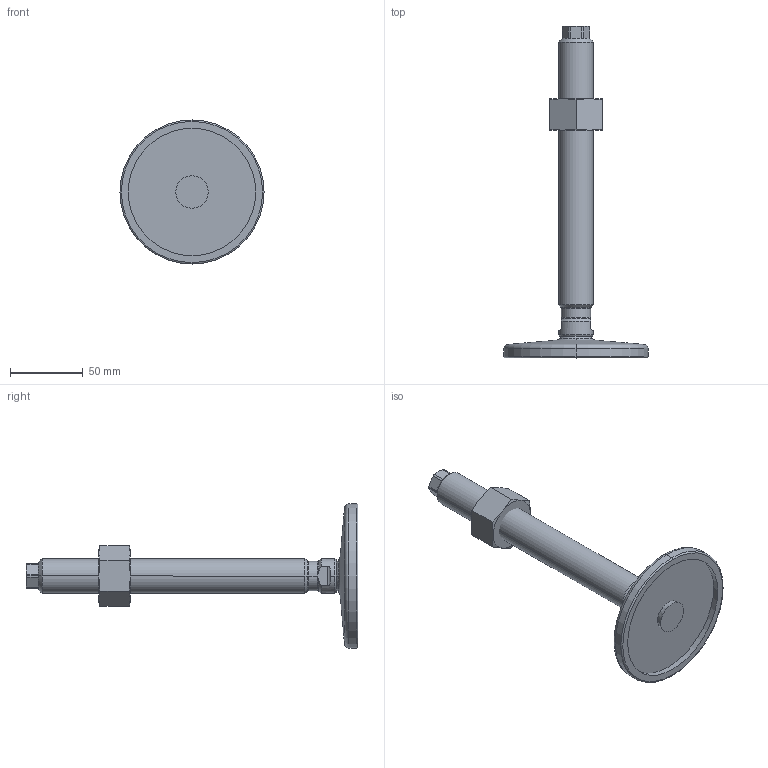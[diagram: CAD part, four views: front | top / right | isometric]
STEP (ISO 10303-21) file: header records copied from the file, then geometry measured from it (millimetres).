
FILE_DESCRIPTION (( 'STEP AP214' ), '1' );
FILE_NAME ('21-100-M24-200-D0-VK.step', '2020-10-02T17:37:04', ( '' ), ( '' ), 'SwSTEP 2.0', 'SolidWorks 2019', '' );
FILE_SCHEMA (( 'AUTOMOTIVE_DESIGN' ));
Length unit declared in the file: millimetre
Products named in the file (4): 21-100-M24-200-D0-VK; WB4032^WB21_V_M24; WB21_Fußteller 21^WB21_V_D0-100-R14-B9 (M24); WB21_Spindel_V^WB21_V_M24-200
Assembly tree (3 placements, depth 2):
  21-100-M24-200-D0-VK
    WB21_Fußteller 21^WB21_V_D0-100-R14-B9 (M24)
    WB21_Spindel_V^WB21_V_M24-200
    WB4032^WB21_V_M24
Bounding box: 99 x 227.9 x 99 mm (x, y, z)
Volume: 164192.3 mm3; surface area: 42054.7 mm2
Topology: 3 solids, 3 shells, 101 faces, 225 edges, 133 vertices
Faces by surface type: cone 33, plane 29, cylinder 25, torus 10, sphere 4
Entity records: 3176 total; most frequent: CARTESIAN_POINT 749, DIRECTION 492, ORIENTED_EDGE 450, EDGE_CURVE 225, AXIS2_PLACEMENT_3D 212, VERTEX_POINT 133, EDGE_LOOP 106, CIRCLE 105
